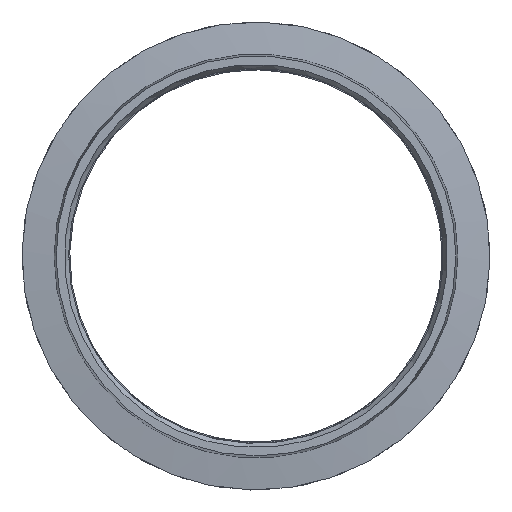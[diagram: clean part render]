
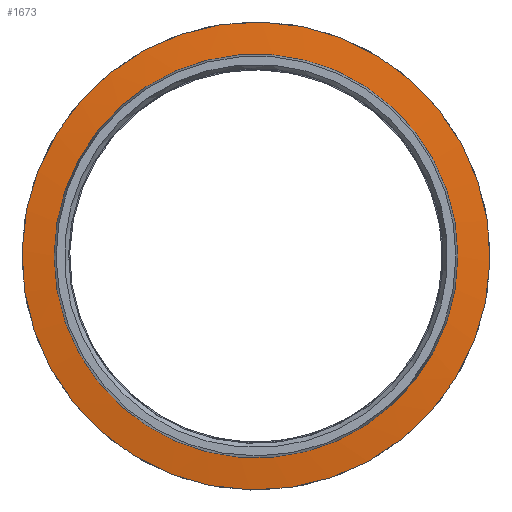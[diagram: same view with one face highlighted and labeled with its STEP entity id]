
A CAD part, left-side view. The second image highlights one B-rep face of the part: STEP entity #1673.
In plain terms, the highlighted conical face has half-angle 83 degrees and reference radius 27.466 mm.
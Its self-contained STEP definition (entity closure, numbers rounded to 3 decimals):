
#57=LINE('',#11406,#74);
#74=VECTOR('',#2162,27.466);
#85=CONICAL_SURFACE('',#1850,27.466,1.449);
#197=FACE_OUTER_BOUND('',#315,.T.);
#315=EDGE_LOOP('',(#1372,#1373,#1374,#1375,#1376,#1377));
#330=CIRCLE('',#1709,27.469);
#331=CIRCLE('',#1710,27.469);
#416=CIRCLE('',#1815,27.469);
#422=CIRCLE('',#1822,31.85);
#537=VERTEX_POINT('',#2281);
#539=VERTEX_POINT('',#2292);
#540=VERTEX_POINT('',#2321);
#689=VERTEX_POINT('',#8319);
#702=EDGE_CURVE('',#540,#539,#330,.T.);
#703=EDGE_CURVE('',#537,#540,#331,.T.);
#891=EDGE_CURVE('',#539,#537,#416,.T.);
#899=EDGE_CURVE('',#689,#689,#422,.T.);
#928=EDGE_CURVE('',#689,#540,#57,.T.);
#1372=ORIENTED_EDGE('',*,*,#899,.T.);
#1373=ORIENTED_EDGE('',*,*,#928,.T.);
#1374=ORIENTED_EDGE('',*,*,#702,.T.);
#1375=ORIENTED_EDGE('',*,*,#891,.T.);
#1376=ORIENTED_EDGE('',*,*,#703,.T.);
#1377=ORIENTED_EDGE('',*,*,#928,.F.);
#1673=ADVANCED_FACE('',(#197),#85,.T.);
#1709=AXIS2_PLACEMENT_3D('',#2322,#1866,#1867);
#1710=AXIS2_PLACEMENT_3D('',#2323,#1868,#1869);
#1815=AXIS2_PLACEMENT_3D('',#8170,#2088,#2089);
#1822=AXIS2_PLACEMENT_3D('',#8320,#2102,#2103);
#1850=AXIS2_PLACEMENT_3D('',#11405,#2160,#2161);
#1866=DIRECTION('center_axis',(1.,0.,0.));
#1867=DIRECTION('ref_axis',(0.,0.945,0.328));
#1868=DIRECTION('center_axis',(1.,0.,0.));
#1869=DIRECTION('ref_axis',(0.,0.945,0.328));
#2088=DIRECTION('center_axis',(1.,0.,0.));
#2089=DIRECTION('ref_axis',(0.,-1.,0.));
#2102=DIRECTION('center_axis',(-1.,0.,0.));
#2103=DIRECTION('ref_axis',(0.,-0.878,0.479));
#2160=DIRECTION('center_axis',(1.,0.,0.));
#2161=DIRECTION('ref_axis',(0.,-0.878,0.479));
#2162=DIRECTION('',(-0.122,-0.871,0.476));
#2281=CARTESIAN_POINT('',(-47.851,-27.469,0.));
#2292=CARTESIAN_POINT('',(-47.851,25.953,9.));
#2321=CARTESIAN_POINT('',(-47.851,24.106,-13.169));
#2322=CARTESIAN_POINT('Origin',(-47.851,0.,
0.));
#2323=CARTESIAN_POINT('Origin',(-47.851,0.,
0.));
#8170=CARTESIAN_POINT('Origin',(-47.851,0.,
0.));
#8319=CARTESIAN_POINT('',(-47.313,27.951,-15.27));
#8320=CARTESIAN_POINT('Origin',(-47.313,0.,0.));
#11405=CARTESIAN_POINT('Origin',(-47.851,0.,0.));
#11406=CARTESIAN_POINT('',(-47.851,24.104,-13.168));
